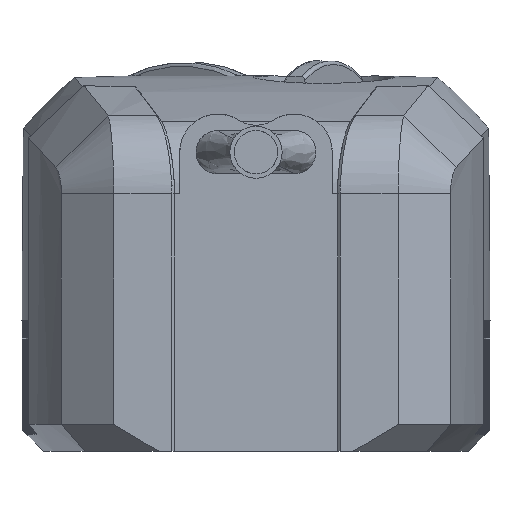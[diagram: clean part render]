
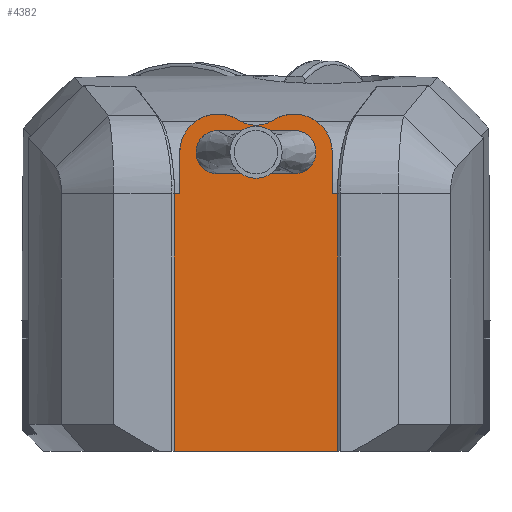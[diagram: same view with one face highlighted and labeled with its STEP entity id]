
A CAD part, front view. The second image highlights one B-rep face of the part: STEP entity #4382.
In plain terms, the highlighted planar face has unit normal (0, -1, 0).
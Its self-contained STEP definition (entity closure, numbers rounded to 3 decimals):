
#202=LINE('',#8182,#484);
#229=LINE('',#8660,#511);
#263=LINE('',#9993,#545);
#264=LINE('',#9996,#546);
#265=LINE('',#9998,#547);
#266=LINE('',#9999,#548);
#267=LINE('',#10001,#549);
#484=VECTOR('',#5422,1000.);
#511=VECTOR('',#5483,1000.);
#545=VECTOR('',#5553,1000.);
#546=VECTOR('',#5556,1000.);
#547=VECTOR('',#5557,1000.);
#548=VECTOR('',#5558,1000.);
#549=VECTOR('',#5561,1000.);
#650=FACE_BOUND('',#1368,.T.);
#651=FACE_BOUND('',#1369,.T.);
#849=PLANE('',#4772);
#1091=FACE_OUTER_BOUND('',#1367,.T.);
#1367=EDGE_LOOP('',(#3401,#3402,#3403,#3404,#3405,#3406,#3407,#3408,#3409,
#3410));
#1368=EDGE_LOOP('',(#3411));
#1369=EDGE_LOOP('',(#3412));
#1628=CIRCLE('',#4622,4.);
#1629=CIRCLE('',#4624,7.);
#1673=CIRCLE('',#4670,4.);
#1674=CIRCLE('',#4672,7.);
#1728=CIRCLE('',#4773,5.95);
#1830=VERTEX_POINT('',#6766);
#1832=VERTEX_POINT('',#6808);
#1833=VERTEX_POINT('',#6809);
#1927=VERTEX_POINT('',#7039);
#1929=VERTEX_POINT('',#7081);
#1930=VERTEX_POINT('',#7082);
#2080=VERTEX_POINT('',#8077);
#2081=VERTEX_POINT('',#8181);
#2121=VERTEX_POINT('',#8657);
#2122=VERTEX_POINT('',#8659);
#2150=VERTEX_POINT('',#9995);
#2151=VERTEX_POINT('',#9997);
#2262=EDGE_CURVE('',#1830,#1830,#1628,.T.);
#2264=EDGE_CURVE('',#1832,#1833,#1629,.T.);
#2359=EDGE_CURVE('',#1927,#1927,#1673,.T.);
#2361=EDGE_CURVE('',#1929,#1930,#1674,.T.);
#2522=EDGE_CURVE('',#2081,#2080,#202,.T.);
#2573=EDGE_CURVE('',#2122,#2121,#229,.T.);
#2634=EDGE_CURVE('',#2080,#2122,#263,.T.);
#2635=EDGE_CURVE('',#2150,#2121,#264,.T.);
#2636=EDGE_CURVE('',#2151,#2150,#265,.T.);
#2637=EDGE_CURVE('',#2151,#1832,#266,.T.);
#2638=EDGE_CURVE('',#1930,#1833,#1728,.T.);
#2639=EDGE_CURVE('',#2081,#1929,#267,.T.);
#3401=ORIENTED_EDGE('',*,*,#2573,.T.);
#3402=ORIENTED_EDGE('',*,*,#2635,.F.);
#3403=ORIENTED_EDGE('',*,*,#2636,.F.);
#3404=ORIENTED_EDGE('',*,*,#2637,.T.);
#3405=ORIENTED_EDGE('',*,*,#2264,.T.);
#3406=ORIENTED_EDGE('',*,*,#2638,.F.);
#3407=ORIENTED_EDGE('',*,*,#2361,.F.);
#3408=ORIENTED_EDGE('',*,*,#2639,.F.);
#3409=ORIENTED_EDGE('',*,*,#2522,.T.);
#3410=ORIENTED_EDGE('',*,*,#2634,.T.);
#3411=ORIENTED_EDGE('',*,*,#2359,.T.);
#3412=ORIENTED_EDGE('',*,*,#2262,.F.);
#4382=ADVANCED_FACE('',(#1091,#650,#651),#849,.F.);
#4622=AXIS2_PLACEMENT_3D('',#6767,#5072,#5073);
#4624=AXIS2_PLACEMENT_3D('',#6810,#5076,#5077);
#4670=AXIS2_PLACEMENT_3D('',#7040,#5216,#5217);
#4672=AXIS2_PLACEMENT_3D('',#7083,#5220,#5221);
#4772=AXIS2_PLACEMENT_3D('',#9994,#5554,#5555);
#4773=AXIS2_PLACEMENT_3D('',#10000,#5559,#5560);
#5072=DIRECTION('center_axis',(0.,-1.,0.));
#5073=DIRECTION('ref_axis',(0.,0.,-1.));
#5076=DIRECTION('center_axis',(0.,-1.,0.));
#5077=DIRECTION('ref_axis',(0.,0.,-1.));
#5216=DIRECTION('center_axis',(0.,1.,0.));
#5217=DIRECTION('ref_axis',(0.,0.,-1.));
#5220=DIRECTION('center_axis',(0.,1.,0.));
#5221=DIRECTION('ref_axis',(0.,0.,-1.));
#5422=DIRECTION('',(-1.,0.,0.));
#5483=DIRECTION('',(1.,0.,0.));
#5553=DIRECTION('',(0.,0.,-1.));
#5554=DIRECTION('center_axis',(0.,1.,0.));
#5555=DIRECTION('ref_axis',(0.,0.,1.));
#5556=DIRECTION('',(0.,0.,-1.));
#5557=DIRECTION('',(1.,0.,0.));
#5558=DIRECTION('',(0.,0.,1.));
#5559=DIRECTION('center_axis',(0.,-1.,0.));
#5560=DIRECTION('ref_axis',(0.,0.,-1.));
#5561=DIRECTION('',(0.,0.,1.));
#6766=CARTESIAN_POINT('',(7.,-64.,59.));
#6767=CARTESIAN_POINT('Origin',(7.,-64.,55.));
#6808=CARTESIAN_POINT('',(14.,-64.,55.));
#6809=CARTESIAN_POINT('',(3.216,-64.,60.889));
#6810=CARTESIAN_POINT('Origin',(7.,-64.,55.));
#7039=CARTESIAN_POINT('',(-7.,-64.,59.));
#7040=CARTESIAN_POINT('Origin',(-7.,-64.,55.));
#7081=CARTESIAN_POINT('',(-14.,-64.,55.));
#7082=CARTESIAN_POINT('',(-3.216,-64.,60.889));
#7083=CARTESIAN_POINT('Origin',(-7.,-64.,55.));
#8077=CARTESIAN_POINT('',(-15.,-64.,47.341));
#8181=CARTESIAN_POINT('',(-14.,-64.,47.341));
#8182=CARTESIAN_POINT('',(44.,-64.,47.341));
#8657=CARTESIAN_POINT('',(15.,-64.,0.));
#8659=CARTESIAN_POINT('',(-15.,-64.,0.));
#8660=CARTESIAN_POINT('',(44.,-64.,0.));
#9993=CARTESIAN_POINT('',(-15.,-64.,70.));
#9994=CARTESIAN_POINT('Origin',(44.,-64.,70.));
#9995=CARTESIAN_POINT('',(15.,-64.,47.341));
#9996=CARTESIAN_POINT('',(15.,-64.,70.));
#9997=CARTESIAN_POINT('',(14.,-64.,47.341));
#9998=CARTESIAN_POINT('',(-44.,-64.,47.341));
#9999=CARTESIAN_POINT('',(14.,-64.,55.));
#10000=CARTESIAN_POINT('Origin',(0.,-64.,65.895));
#10001=CARTESIAN_POINT('',(-14.,-64.,55.));
